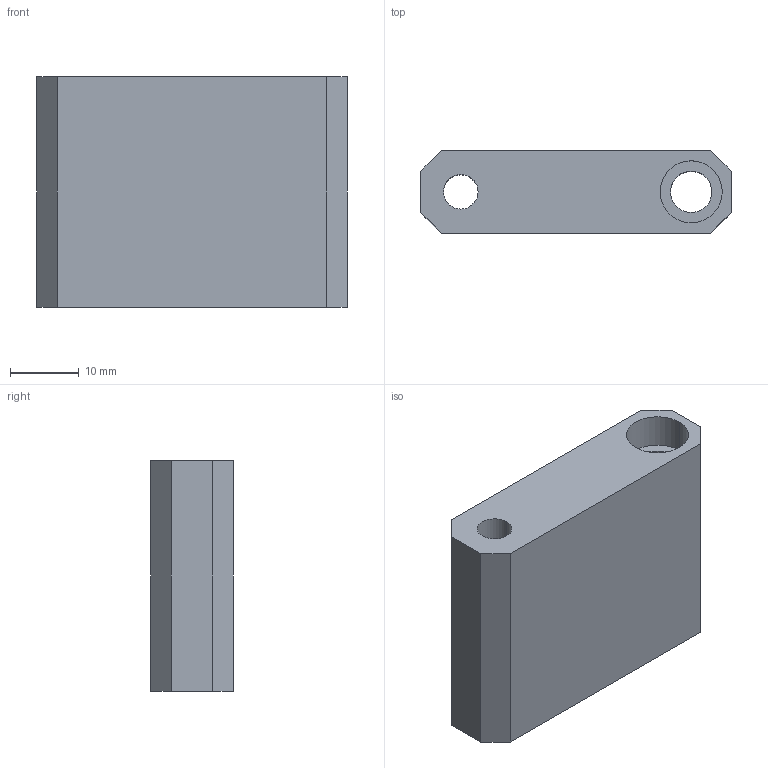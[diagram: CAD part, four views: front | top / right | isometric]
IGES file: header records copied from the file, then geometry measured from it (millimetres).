
Start section: START RECORD GO HERE.
Global section: file name: VR_Support_tower_opposite_v2.igs; native system: IBM CATIA IGES - CATIA Version 5 Release 19 ; preprocessor: CATIA Version 5 Release 19 ; author: Administrateur; organization: PC_MATHIEU; date: 20130515.222133; units: millimetre
Bounding box: 45 x 12 x 33.45 mm (x, y, z)
Surface area: 5729.4 mm2 (no closed solid volume)
Topology: 0 solids, 0 shells, 17 faces, 84 edges, 84 vertices
Faces by surface type: plane 11, revolution 6
